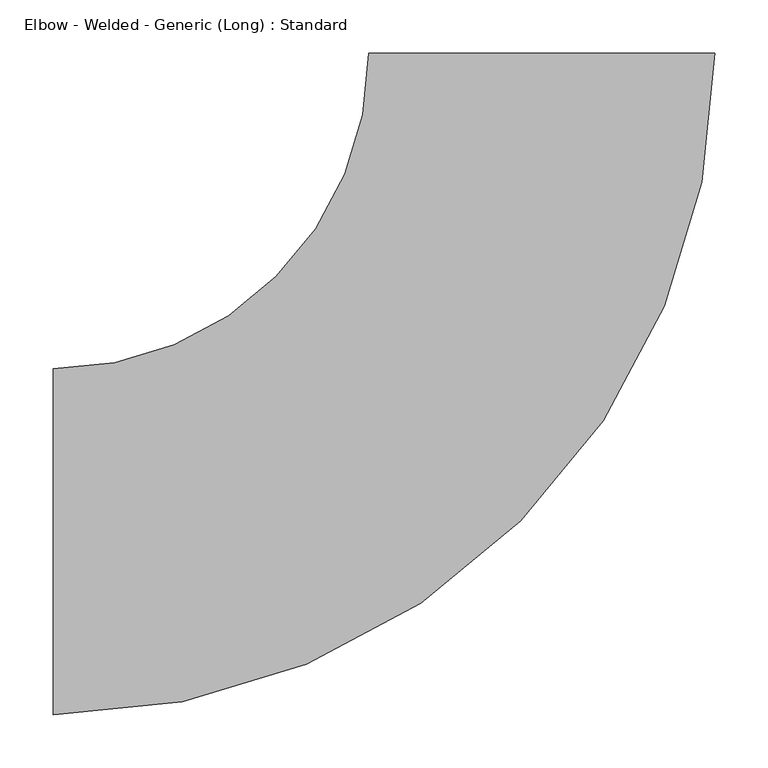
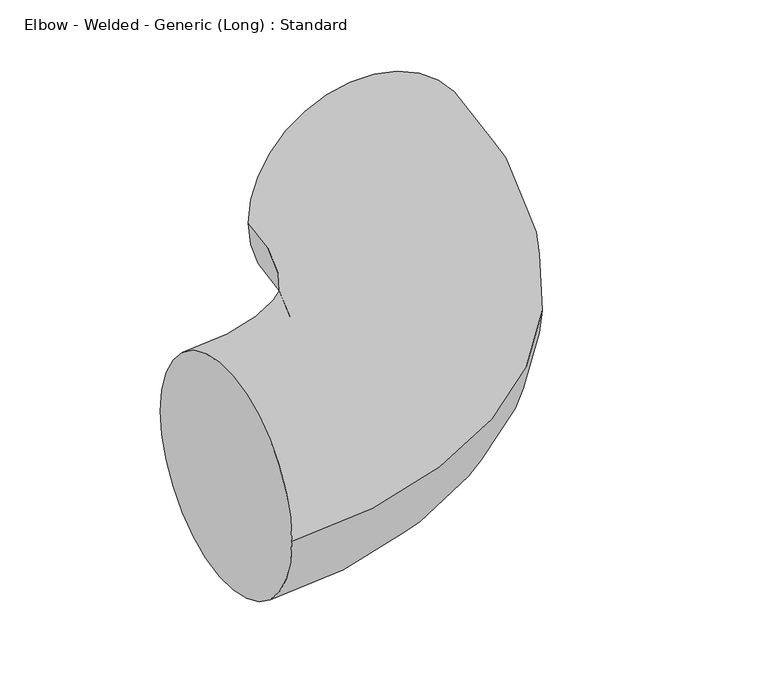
"""IFC4 building model written with IfcOpenShell, lengths in millimetres: pipe fitting geometry, Elbow - Welded - Generic (Long) : Standard."""

from ifc_helpers import new_model, si_unit, point, frame, origin, place, context, project, spatial, circle_curve, ellipse_curve, trimmed, source, transform, mapped, element, save
from ifc_brep_helpers import plane_surface, revolved_surface, advanced_brep


def elbow_welded_generic_long_standard_b82ff960(model_context):
    return source(origin(), model_context, "Body", "AdvancedBrep", [
        advanced_brep(
        [(-457.2, -161.925, 0.0), (-457.2, 161.925, 0.0), (161.925, 457.2, 0.0), (-161.925, 457.2, 0.0)],
        [
            (0, 1, circle_curve(frame((-457.2, 0.0, 0.0), z_axis=(-1.0, 0.0, 0.0), x_axis=(0.0, 1.0, 0.0)), 161.925)),
            (1, 0, circle_curve(frame((-457.2, 0.0, 0.0), z_axis=(-1.0, 0.0, 0.0), x_axis=(0.0, 1.0, 0.0)), 161.925)),
            (2, 3, circle_curve(frame((0.0, 457.2, 0.0), z_axis=(0.0, 1.0, 0.0), x_axis=(-1.0, 0.0, 0.0)), 161.925)),
            (3, 2, circle_curve(frame((0.0, 457.2, 0.0), z_axis=(0.0, 1.0, 0.0), x_axis=(-1.0, 0.0, 0.0)), 161.925)),
            (3, 1, circle_curve(frame((-457.2, 457.2, 0.0), z_axis=(0.0, 0.0, -1.0), x_axis=(0.0, -1.0, 0.0)), 295.275)),
            (0, 2, circle_curve(frame((-457.2, 457.2, 0.0), z_axis=(0.0, 0.0, 1.0), x_axis=(0.0, -1.0, 0.0)), 619.125)),
        ],
        [
            plane_surface(frame((-457.2, 0.0, 0.0), z_axis=(-1.0, 0.0, 0.0), x_axis=(0.0, 0.0, 1.0))),
            plane_surface(frame((0.0, 457.2, 0.0), z_axis=(0.0, 1.0, 0.0), x_axis=(0.0, 0.0, 1.0))),
            revolved_surface(trimmed(ellipse_curve(frame((-457.2, 0.0, 0.0), z_axis=(-1.0, 0.0, 0.0), x_axis=(0.0, 1.0, 0.0)), 161.925, 161.925), [point((-457.2, -161.925, 0.0))], [point((-457.2, 161.925, 0.0))], True, "CARTESIAN"), (-457.2, 457.2, 0.0), (0.0, 0.0, 1.0)),
            revolved_surface(trimmed(ellipse_curve(frame((-457.2, 0.0, 0.0), z_axis=(-1.0, 0.0, 0.0), x_axis=(0.0, 1.0, 0.0)), 161.925, 161.925), [point((-457.2, 161.925, 0.0))], [point((-457.2, -161.925, 0.0))], True, "CARTESIAN"), (-457.2, 457.2, 0.0), (0.0, 0.0, 1.0)),
        ],
        [
            (0, [[1, 2]]),
            (1, [[3, 4]]),
            (2, [[5, -1, 6, -4]]),
            (3, [[-6, -2, -5, -3]]),
        ],
    ),
    ])


if __name__ == "__main__":
    model = new_model("IFC4")
    model_context = context("Model", 3, world=origin())
    ifc_project = project(units=[si_unit("LENGTHUNIT", "METRE", prefix="MILLI")], contexts=[model_context])
    site = spatial("IfcSite", under=ifc_project)
    building = spatial("IfcBuilding", under=site)
    placement = place(None, origin())
    elbow_welded_generic_long_standard_shape = elbow_welded_generic_long_standard_b82ff960(model_context)
    element("IfcPipeFitting", 1, ObjectType="Elbow - Welded - Generic (Long) : Standard", at=placement, inside=building, context=model_context, shape_type="MappedRepresentation", body=[
        mapped(elbow_welded_generic_long_standard_shape, transform((0.0, 0.0, 0.0), x_axis=(1.0, 0.0, 0.0), y_axis=(0.0, 1.0, 0.0), z_axis=(0.0, 0.0, 1.0))),
    ])
    save(model, "model.ifc")
